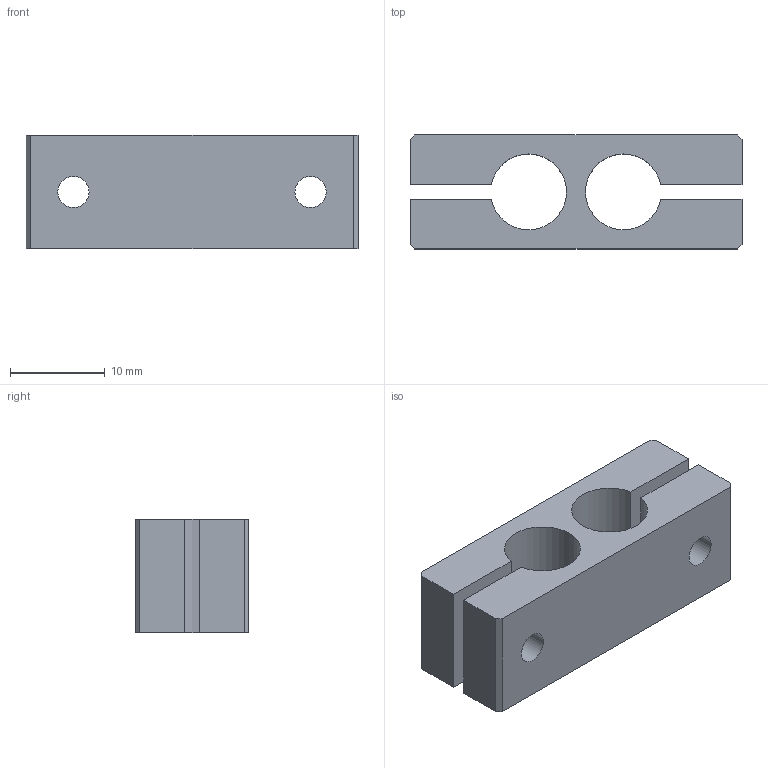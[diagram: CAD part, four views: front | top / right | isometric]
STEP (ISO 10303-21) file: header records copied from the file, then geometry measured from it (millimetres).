
FILE_DESCRIPTION (( 'STEP AP203' ), '1' );
FILE_NAME ('N01861-107(131096).STEP', '2019-09-09T05:58:15', ( '' ), ( '' ), 'SwSTEP 2.0', 'SolidWorks 2018', '' );
FILE_SCHEMA (( 'CONFIG_CONTROL_DESIGN' ));
Length unit declared in the file: millimetre
Products named in the file (2): N01861-107(131096)
Bounding box: 35 x 12 x 12 mm (x, y, z)
Volume: 3057.8 mm3; surface area: 2868.6 mm2
Topology: 1 solids, 1 shells, 26 faces, 67 edges, 45 vertices
Faces by surface type: plane 18, cylinder 8
Full cylindrical faces by diameter (mm): 3.3 x2, 4.5 x2, 8 x2
Entity records: 927 total; most frequent: DIRECTION 132, CARTESIAN_POINT 132, ORIENTED_EDGE 120, EDGE_CURVE 60, VERTEX_POINT 44, LINE 44, VECTOR 44, AXIS2_PLACEMENT_3D 44
